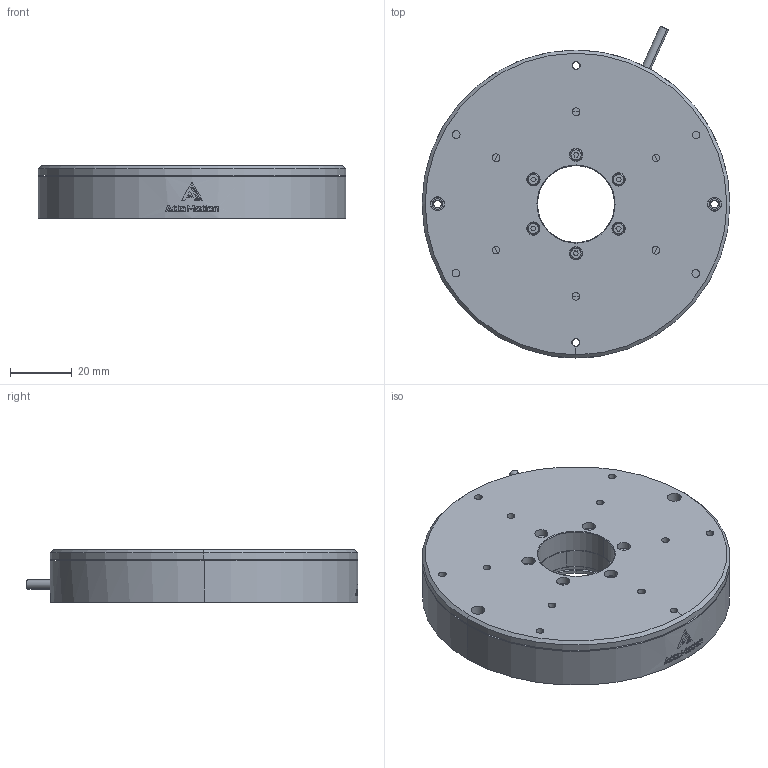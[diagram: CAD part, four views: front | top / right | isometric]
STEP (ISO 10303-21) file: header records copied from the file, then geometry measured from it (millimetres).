
FILE_DESCRIPTION (( 'STEP AP214' ), '1' );
FILE_NAME ('RP-100C 詢儕僅唅蛌怢.STEP', '2023-09-12T10:18:43', ( '' ), ( '' ), 'SwSTEP 2.0', 'SolidWorks 2021', '' );
FILE_SCHEMA (( 'AUTOMOTIVE_DESIGN' ));
Length unit declared in the file: millimetre
Products named in the file (1): RP-100C 詢儕僅唅蛌怢
Bounding box: 100 x 107.86 x 17 mm (x, y, z)
Surface area: 41691.5 mm2 (no closed solid volume)
Topology: 0 solids, 28 shells, 211 faces, 1568 edges, 1387 vertices
Faces by surface type: cylinder 116, plane 69, cone 12, torus 12, bspline 2
Entity records: 18311 total; most frequent: CARTESIAN_POINT 4877, DIRECTION 2163, ORIENTED_EDGE 1941, EDGE_CURVE 1568, VERTEX_POINT 1387, AXIS2_PLACEMENT_3D 833, CIRCLE 623, LINE 497
